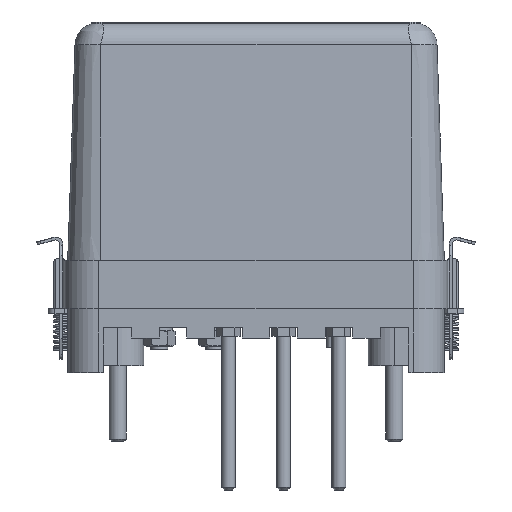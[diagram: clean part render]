
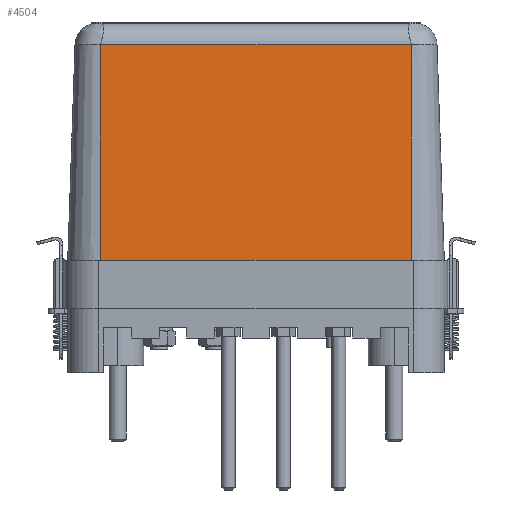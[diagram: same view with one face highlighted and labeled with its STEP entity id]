
A CAD part, left-side view. The second image highlights one B-rep face of the part: STEP entity #4504.
In plain terms, the highlighted planar face has unit normal (-0.999, 0, 0.034).
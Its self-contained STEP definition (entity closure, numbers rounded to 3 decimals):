
#4504=ADVANCED_FACE('',(#12930),#12932,.T.);
#12930=FACE_BOUND('',#12931,.T.);
#12931=EDGE_LOOP('',(#27271,#27272,#27273,#27274,#27275,#27276));
#12932=PLANE('',#12933);
#12933=AXIS2_PLACEMENT_3D('',#12934,#12935,#12936);
#12934=CARTESIAN_POINT('',(-32.5,45.,18.5));
#12935=DIRECTION('',(-0.999,0.,0.034));
#12936=DIRECTION('',(0.,-1.,0.));
#27271=ORIENTED_EDGE('',*,*,#29886,.F.);
#27272=ORIENTED_EDGE('',*,*,#30713,.T.);
#27273=ORIENTED_EDGE('',*,*,#30714,.T.);
#27274=ORIENTED_EDGE('',*,*,#30715,.F.);
#27275=ORIENTED_EDGE('',*,*,#30716,.F.);
#27276=ORIENTED_EDGE('',*,*,#30717,.F.);
#29886=EDGE_CURVE('',#32897,#32899,#32900,.F.);
#30713=EDGE_CURVE('',#32897,#34225,#34227,.T.);
#30714=EDGE_CURVE('',#34225,#34228,#34229,.F.);
#30715=EDGE_CURVE('',#34230,#34228,#34231,.T.);
#30716=EDGE_CURVE('',#34232,#34230,#34233,.F.);
#30717=EDGE_CURVE('',#32899,#34232,#34234,.T.);
#32897=VERTEX_POINT('',#38932);
#32899=VERTEX_POINT('',#38937);
#32900=LINE('',#38938,#38939);
#34225=VERTEX_POINT('',#42782);
#34227=LINE('',#42809,#42810);
#34228=VERTEX_POINT('',#42812);
#34229=LINE('',#42813,#42814);
#34230=VERTEX_POINT('',#42816);
#34231=LINE('',#42817,#42818);
#34232=VERTEX_POINT('',#42820);
#34233=LINE('',#42821,#42822);
#34234=LINE('',#42824,#42825);
#38932=CARTESIAN_POINT('',(-32.023,-45.,32.5));
#38937=CARTESIAN_POINT('',(-32.023,45.,32.5));
#38938=CARTESIAN_POINT('',(-32.023,45.,32.5));
#38939=VECTOR('',#38940,1.);
#38940=DIRECTION('',(0.,-1.,0.));
#42782=CARTESIAN_POINT('',(-29.898,-45.,94.91));
#42809=CARTESIAN_POINT('',(-32.023,-45.,32.5));
#42810=VECTOR('',#42811,1.);
#42811=DIRECTION('',(0.034,0.,0.999));
#42812=CARTESIAN_POINT('',(-29.898,-45.,94.921));
#42813=CARTESIAN_POINT('',(-29.898,-45.,94.921));
#42814=VECTOR('',#42815,1.);
#42815=DIRECTION('',(-0.034,0.,-0.999));
#42816=CARTESIAN_POINT('',(-29.898,45.,94.921));
#42817=CARTESIAN_POINT('',(-29.898,45.,94.921));
#42818=VECTOR('',#42819,1.);
#42819=DIRECTION('',(0.,-1.,0.));
#42820=CARTESIAN_POINT('',(-29.898,45.,94.91));
#42821=CARTESIAN_POINT('',(-29.898,45.,94.921));
#42822=VECTOR('',#42823,1.);
#42823=DIRECTION('',(-0.034,0.,-0.999));
#42824=CARTESIAN_POINT('',(-32.023,45.,32.5));
#42825=VECTOR('',#42826,1.);
#42826=DIRECTION('',(0.034,0.,0.999));
